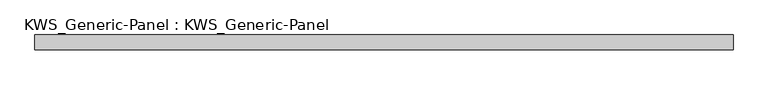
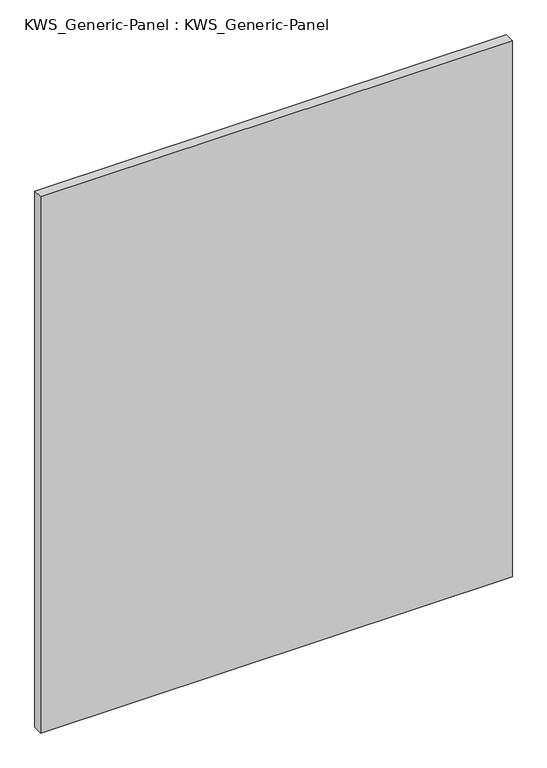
"""IFC4 building model written with IfcOpenShell, lengths in millimetres: plate geometry, KWS_Generic-Panel : KWS_Generic-Panel."""

from ifc_helpers import new_model, si_unit, frame, origin, place, context, project, spatial, polyline, outline, extrude, source, transform, mapped, element, save


def kws_generic_panel_kws_generic_panel_c40079bc(model_context):
    return source(origin(), model_context, "Body", "SweptSolid", [
        extrude(outline(polyline([(757.2375002, 0.0), (-757.2375002, 0.0), (-757.2375002, 31.75), (757.2375002, 31.75), (757.2375002, 0.0)])), frame((0.0, 0.0, 4.7625), z_axis=(0.0, 0.0, 1.0), x_axis=(1.0, 0.0, 0.0)), (0.0, 0.0, 1.0), 1819.275),
    ])


if __name__ == "__main__":
    model = new_model("IFC4")
    model_context = context("Model", 3, world=origin())
    ifc_project = project(units=[si_unit("LENGTHUNIT", "METRE", prefix="MILLI")], contexts=[model_context])
    site = spatial("IfcSite", under=ifc_project)
    building = spatial("IfcBuilding", under=site)
    placement = place(None, origin())
    kws_generic_panel_kws_generic_panel_shape = kws_generic_panel_kws_generic_panel_c40079bc(model_context)
    element("IfcPlate", 1, ObjectType="KWS_Generic-Panel : KWS_Generic-Panel", at=placement, inside=building, context=model_context, shape_type="MappedRepresentation", body=[
        mapped(kws_generic_panel_kws_generic_panel_shape, transform((0.0, 0.0, 0.0), x_axis=(1.0, 0.0, 0.0), y_axis=(0.0, 1.0, 0.0), z_axis=(0.0, 0.0, 1.0))),
    ])
    save(model, "model.ifc")
